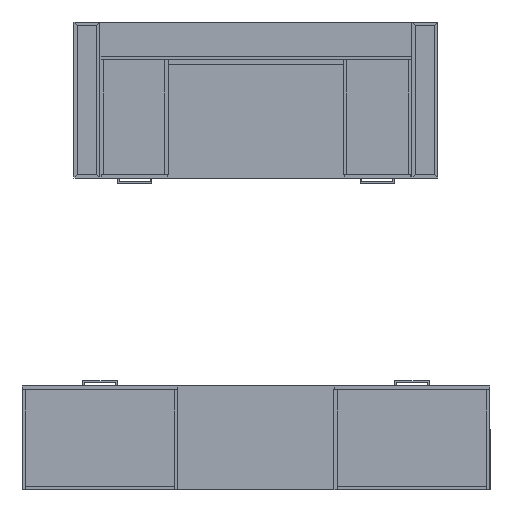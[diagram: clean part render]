
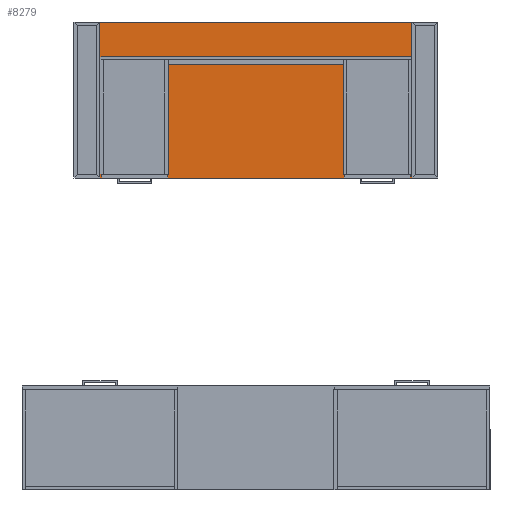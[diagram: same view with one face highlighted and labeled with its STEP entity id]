
A CAD part, front view. The second image highlights one B-rep face of the part: STEP entity #8279.
In plain terms, the highlighted planar face has unit normal (0, -1, 0).
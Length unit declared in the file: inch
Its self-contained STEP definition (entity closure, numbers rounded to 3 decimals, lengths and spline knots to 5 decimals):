
#1561=FACE_OUTER_BOUND('',#2021,.T.);
#2021=EDGE_LOOP('',(#6354,#6355,#6356,#6357));
#2616=LINE('',#12279,#3540);
#2620=LINE('',#12287,#3544);
#2623=LINE('',#12293,#3547);
#2626=LINE('',#12298,#3550);
#3540=VECTOR('',#10053,0.3937);
#3544=VECTOR('',#10059,0.3937);
#3547=VECTOR('',#10064,0.3937);
#3550=VECTOR('',#10069,0.3937);
#4372=VERTEX_POINT('',#12277);
#4373=VERTEX_POINT('',#12278);
#4376=VERTEX_POINT('',#12286);
#4378=VERTEX_POINT('',#12292);
#5098=EDGE_CURVE('',#4372,#4373,#2616,.T.);
#5102=EDGE_CURVE('',#4376,#4372,#2620,.T.);
#5105=EDGE_CURVE('',#4378,#4376,#2623,.T.);
#5108=EDGE_CURVE('',#4373,#4378,#2626,.T.);
#6354=ORIENTED_EDGE('',*,*,#5108,.F.);
#6355=ORIENTED_EDGE('',*,*,#5098,.F.);
#6356=ORIENTED_EDGE('',*,*,#5102,.F.);
#6357=ORIENTED_EDGE('',*,*,#5105,.F.);
#7843=PLANE('',#9098);
#8279=ADVANCED_FACE('',(#1561),#7843,.F.);
#9098=AXIS2_PLACEMENT_3D('',#12301,#10073,#10074);
#10053=DIRECTION('',(1.,0.,0.));
#10059=DIRECTION('',(0.,0.,1.));
#10064=DIRECTION('',(-1.,0.,0.));
#10069=DIRECTION('',(0.,0.,-1.));
#10073=DIRECTION('center_axis',(0.,1.,0.));
#10074=DIRECTION('ref_axis',(0.,0.,1.));
#12277=CARTESIAN_POINT('',(-78.,27.625,0.));
#12278=CARTESIAN_POINT('',(6.,27.625,0.));
#12279=CARTESIAN_POINT('',(-78.,27.625,0.));
#12286=CARTESIAN_POINT('',(-78.,27.625,-36.));
#12287=CARTESIAN_POINT('',(-78.,27.625,-36.));
#12292=CARTESIAN_POINT('',(6.,27.625,-36.));
#12293=CARTESIAN_POINT('',(6.,27.625,-36.));
#12298=CARTESIAN_POINT('',(6.,27.625,0.));
#12301=CARTESIAN_POINT('Origin',(-36.,27.625,-18.));
